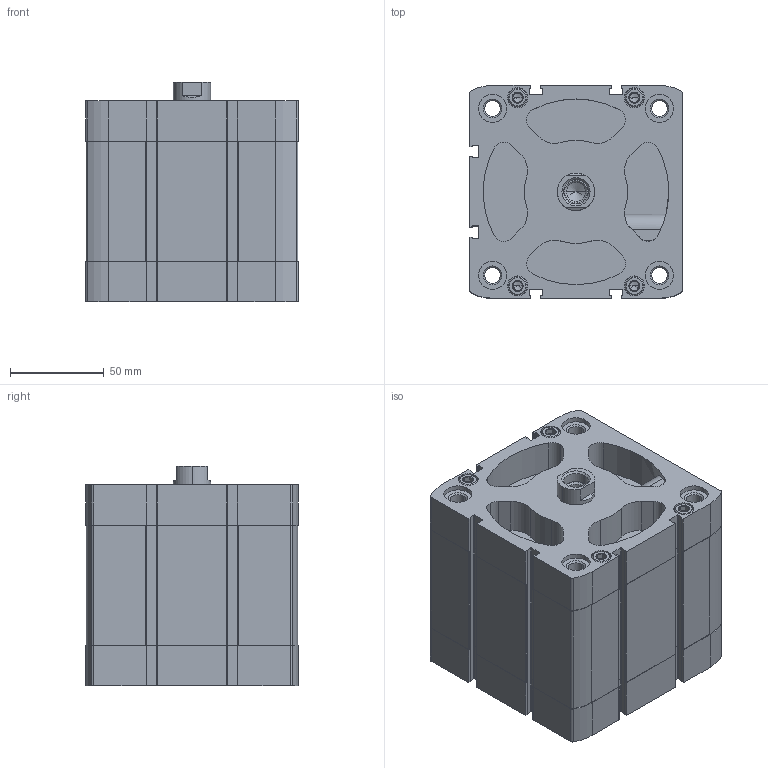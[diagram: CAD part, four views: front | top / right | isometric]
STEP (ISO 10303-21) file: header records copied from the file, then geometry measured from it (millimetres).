
FILE_DESCRIPTION (( 'STEP AP203' ), '1' );
FILE_NAME ('CCN100-40F.STEP', '2020-06-05T18:13:49', ( '' ), ( '' ), 'SwSTEP 2.0', 'SolidWorks 2019', '' );
FILE_SCHEMA (( 'CONFIG_CONTROL_DESIGN' ));
Length unit declared in the file: millimetre
Products named in the file (1): CCN100-40F
Bounding box: 113.5 x 113.5 x 116.8 mm (x, y, z)
Volume: 870997.5 mm3; surface area: 181297 mm2
Topology: 2 solids, 2 shells, 628 faces, 1631 edges, 1043 vertices
Faces by surface type: plane 284, cylinder 270, cone 74
Entity records: 20342 total; most frequent: CARTESIAN_POINT 4507, DIRECTION 3451, ORIENTED_EDGE 3226, EDGE_CURVE 1613, AXIS2_PLACEMENT_3D 1281, VERTEX_POINT 1043, VECTOR 889, LINE 889
